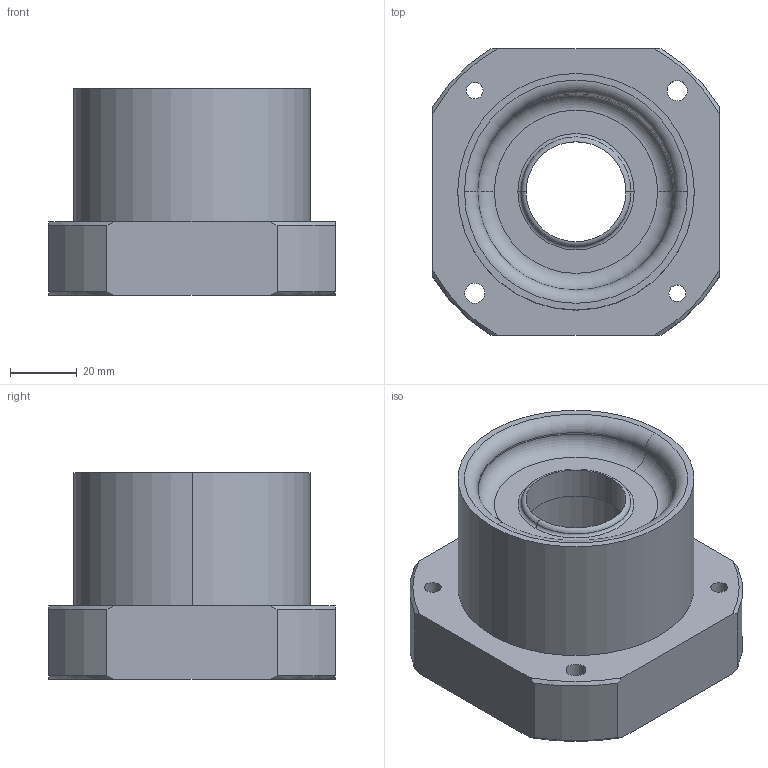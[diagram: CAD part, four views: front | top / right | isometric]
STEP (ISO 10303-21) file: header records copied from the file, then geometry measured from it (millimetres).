
FILE_DESCRIPTION (( 'STEP AP203' ), '1' );
FILE_NAME ('MATRICE.STEP', '2007-02-08T14:47:32', ( 'PATRICK' ), ( 'MAISON' ), 'SwSTEP 2.0', 'SolidWorks 2002127', '' );
FILE_SCHEMA (( 'CONFIG_CONTROL_DESIGN' ));
Length unit declared in the file: millimetre
Products named in the file (1): MATRICE
Bounding box: 86 x 86 x 62 mm (x, y, z)
Volume: 220419.7 mm3; surface area: 36864.4 mm2
Topology: 1 solids, 1 shells, 45 faces, 112 edges, 72 vertices
Faces by surface type: cylinder 20, plane 9, cone 8, torus 8
Entity records: 1479 total; most frequent: CARTESIAN_POINT 278, DIRECTION 252, ORIENTED_EDGE 224, EDGE_CURVE 112, AXIS2_PLACEMENT_3D 110, VERTEX_POINT 72, CIRCLE 64, EDGE_LOOP 58
